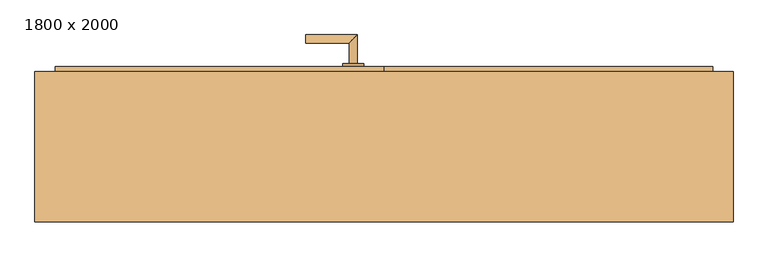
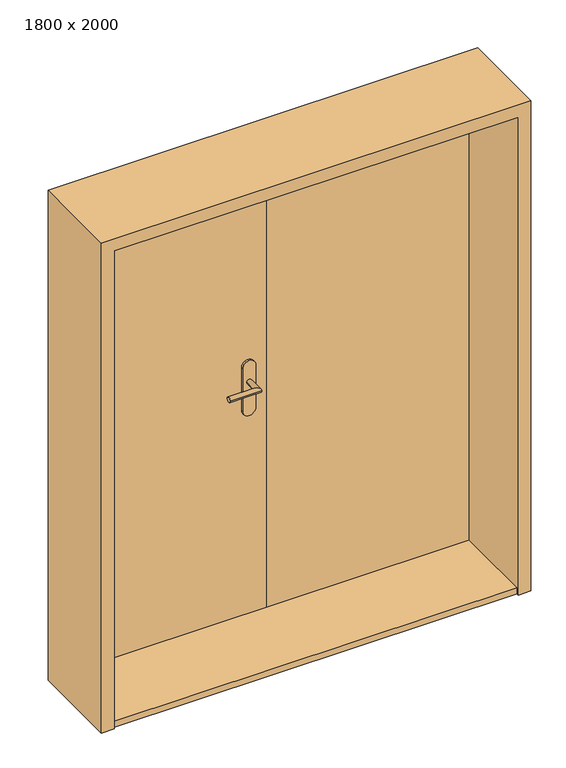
"""IFC4 building model written with IfcOpenShell, lengths in millimetres: door geometry, Dvoukridle oboustrana zaruben : 1800 x 2000."""

from ifc_helpers import new_model, si_unit, point, frame, frame_2d, origin, origin_with_axes, place, context, project, spatial, polyline, circle_curve, ellipse_curve, trimmed, segment, composite_curve, outline, extrude, source, transform, mapped, element, save
from ifc_brep_helpers import plane_surface, cylinder_surface, advanced_brep


def door_1800_x_2000_69ae4523(model_context):
    return source(origin(), model_context, "Body", "SolidModel", [
        extrude(outline(composite_curve([segment(polyline([(883.5, -69.0), (1061.5, -69.0)]), True, "CONTINUOUS"), segment(trimmed(circle_curve(frame_2d((1061.5, -95.0)), 26.0), [point((1061.5, -69.0))], [point((1061.5, -121.0))], False, "CARTESIAN"), True, "CONTINUOUS"), segment(polyline([(1061.5, -121.0), (883.5, -121.0)]), True, "CONTINUOUS"), segment(trimmed(circle_curve(frame_2d((883.5, -95.0)), 26.0), [point((883.5, -121.0))], [point((883.5, -69.0))], False, "CARTESIAN"), True, "CONTINUOUS")], self_intersect=False)), frame((0.0, 195.0, 0.0), z_axis=(0.0, 1.0, 0.0), x_axis=(0.0, 0.0, 1.0)), (0.0, 0.0, 1.0), 8.0),
        advanced_brep(
        [(-85.0, 203.0, 1000.0), (-105.0, 203.0, 1000.0), (-105.0, 253.0, 1000.0), (-85.0, 273.0, 1000.0), (-210.0, 273.0, 1000.0), (-210.0, 253.0, 1000.0)],
        [
            (0, 1, circle_curve(frame((-95.0, 203.0, 1000.0), z_axis=(0.0, -1.0, 0.0), x_axis=(-1.0, 0.0, 0.0)), 10.0)),
            (1, 0, circle_curve(frame((-95.0, 203.0, 1000.0), z_axis=(0.0, -1.0, 0.0), x_axis=(-1.0, 0.0, 0.0)), 10.0)),
            (1, 2),
            (2, 3, ellipse_curve(frame((-95.0, 263.0, 1000.0), z_axis=(0.7071067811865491, -0.7071067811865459, 0.0), x_axis=(-0.7071067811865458, -0.7071067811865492, 0.0)), 14.1421356, 10.0)),
            (3, 0),
            (3, 2, ellipse_curve(frame((-95.0, 263.0, 1000.0), z_axis=(0.7071067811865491, -0.7071067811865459, 0.0), x_axis=(-0.7071067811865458, -0.7071067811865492, 0.0)), 14.1421356, 10.0)),
            (4, 5, circle_curve(frame((-210.0, 263.0, 1000.0), z_axis=(-1.0, 0.0, 0.0), x_axis=(0.0, -1.0, 0.0)), 10.0)),
            (5, 4, circle_curve(frame((-210.0, 263.0, 1000.0), z_axis=(-1.0, 0.0, 0.0), x_axis=(0.0, -1.0, 0.0)), 10.0)),
            (2, 5),
            (4, 3),
        ],
        [
            plane_surface(frame((-95.0, 203.0, 1000.0), z_axis=(0.0, -1.0, 0.0), x_axis=(0.0, 0.0, 1.0))),
            cylinder_surface(frame((-95.0, 203.0, 1000.0), z_axis=(0.0, -1.0, 0.0), x_axis=(-1.0, 0.0, 0.0)), 10.0),
            plane_surface(frame((-210.0, 263.0, 1000.0), z_axis=(-1.0, 0.0, 0.0), x_axis=(0.0, 0.0, 1.0))),
            cylinder_surface(frame((-95.0, 263.0, 1000.0), z_axis=(1.0, 0.0, 0.0), x_axis=(0.0, -1.0, 0.0)), 10.0),
        ],
        [
            (0, [[1, 2]]),
            (1, [[3, 4, 5, -2]]),
            (1, [[-5, 6, -3, -1]]),
            (2, [[7, 8]]),
            (3, [[9, -7, 10, -4]]),
            (3, [[-10, -8, -9, -6]]),
        ],
    ),
        extrude(outline(composite_curve([segment(polyline([(883.5, -69.0), (1061.5, -69.0)]), True, "CONTINUOUS"), segment(trimmed(circle_curve(frame_2d((1061.5, -95.0)), 26.0), [point((1061.5, -69.0))], [point((1061.5, -121.0))], False, "CARTESIAN"), True, "CONTINUOUS"), segment(polyline([(1061.5, -121.0), (883.5, -121.0)]), True, "CONTINUOUS"), segment(trimmed(circle_curve(frame_2d((883.5, -95.0)), 26.0), [point((883.5, -121.0))], [point((883.5, -69.0))], False, "CARTESIAN"), True, "CONTINUOUS")], self_intersect=False)), frame((0.0, 147.0, 0.0), z_axis=(0.0, 1.0, 0.0), x_axis=(0.0, 0.0, 1.0)), (0.0, 0.0, 1.0), 8.0),
        advanced_brep(
        [(-85.0, 147.0, 1000.0), (-105.0, 147.0, 1000.0), (-85.0, 77.0, 1000.0), (-105.0, 97.0, 1000.0), (-210.0, 77.0, 1000.0), (-210.0, 97.0, 1000.0)],
        [
            (0, 1, circle_curve(frame((-95.0, 147.0, 1000.0), z_axis=(0.0, 1.0, 0.0), x_axis=(-1.0, 0.0, 0.0)), 10.0)),
            (1, 0, circle_curve(frame((-95.0, 147.0, 1000.0), z_axis=(0.0, 1.0, 0.0), x_axis=(-1.0, 0.0, 0.0)), 10.0)),
            (0, 2),
            (2, 3, ellipse_curve(frame((-95.0, 87.0, 1000.0), z_axis=(0.7071067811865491, 0.7071067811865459, 0.0), x_axis=(-0.7071067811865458, 0.7071067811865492, 0.0)), 14.1421356, 10.0)),
            (3, 1),
            (3, 2, ellipse_curve(frame((-95.0, 87.0, 1000.0), z_axis=(0.7071067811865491, 0.7071067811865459, 0.0), x_axis=(-0.7071067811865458, 0.7071067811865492, 0.0)), 14.1421356, 10.0)),
            (4, 5, circle_curve(frame((-210.0, 87.0, 1000.0), z_axis=(-1.0, 0.0, 0.0), x_axis=(0.0, 1.0, 0.0)), 10.0)),
            (5, 4, circle_curve(frame((-210.0, 87.0, 1000.0), z_axis=(-1.0, 0.0, 0.0), x_axis=(0.0, 1.0, 0.0)), 10.0)),
            (2, 4),
            (5, 3),
        ],
        [
            plane_surface(frame((-95.0, 147.0, 1000.0), z_axis=(0.0, 1.0, 0.0), x_axis=(0.0, 0.0, 1.0))),
            cylinder_surface(frame((-95.0, 147.0, 1000.0), z_axis=(0.0, 1.0, 0.0), x_axis=(-1.0, 0.0, 0.0)), 10.0),
            plane_surface(frame((-210.0, 87.0, 1000.0), z_axis=(-1.0, 0.0, 0.0), x_axis=(0.0, 0.0, 1.0))),
            cylinder_surface(frame((-95.0, 87.0, 1000.0), z_axis=(1.0, 0.0, 0.0), x_axis=(0.0, 1.0, 0.0)), 10.0),
        ],
        [
            (0, [[1, 2]]),
            (1, [[-1, 3, 4, 5]]),
            (1, [[-2, -5, 6, -3]]),
            (2, [[7, 8]]),
            (3, [[-4, 9, -8, 10]]),
            (3, [[-6, -10, -7, -9]]),
        ],
    ),
        extrude(outline(polyline([(-20.0, 195.0), (780.0, 195.0), (780.0, 155.0), (-20.0, 155.0), (-20.0, 195.0)])), origin_with_axes(), (0.0, 0.0, 1.0), 2000.0),
        extrude(outline(polyline([(-820.0, 195.0), (-20.0, 195.0), (-20.0, 155.0), (-820.0, 155.0), (-820.0, 195.0)])), origin_with_axes(), (0.0, 0.0, 1.0), 2000.0),
        extrude(outline(polyline([(0.0, 780.0), (0.0, 830.0), (2050.0, 830.0), (2050.0, -870.0), (0.0, -870.0), (0.0, -820.0), (2000.0, -820.0), (2000.0, 780.0), (0.0, 780.0)])), frame((0.0, -183.0, 0.0), z_axis=(0.0, 1.0, 0.0), x_axis=(0.0, 0.0, 1.0)), (0.0, 0.0, 1.0), 366.0),
        extrude(outline(polyline([(780.0, -175.0), (-820.0, -175.0), (-820.0, 155.0), (780.0, 155.0), (780.0, -175.0)])), origin_with_axes(), (0.0, 0.0, 1.0), 25.0),
    ])


if __name__ == "__main__":
    model = new_model("IFC4")
    model_context = context("Model", 3, world=origin())
    ifc_project = project(units=[si_unit("LENGTHUNIT", "METRE", prefix="MILLI")], contexts=[model_context])
    site = spatial("IfcSite", under=ifc_project)
    building = spatial("IfcBuilding", under=site)
    placement = place(None, origin())
    door_1800_x_2000_shape = door_1800_x_2000_69ae4523(model_context)
    element("IfcDoor", 1, ObjectType="Dvoukridle oboustrana zaruben : 1800 x 2000", at=placement, inside=building, context=model_context, shape_type="MappedRepresentation", body=[
        mapped(door_1800_x_2000_shape, transform((0.0, 0.0, 0.0), x_axis=(1.0, 0.0, 0.0), y_axis=(0.0, 1.0, 0.0), z_axis=(0.0, 0.0, 1.0))),
    ])
    save(model, "model.ifc")
